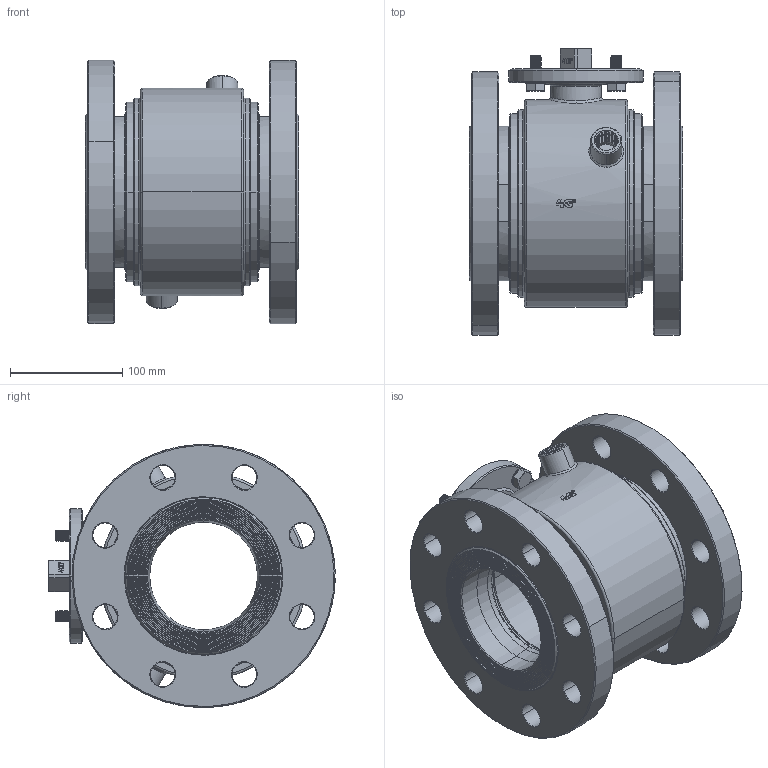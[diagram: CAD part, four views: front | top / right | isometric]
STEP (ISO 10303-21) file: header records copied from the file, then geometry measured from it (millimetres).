
FILE_DESCRIPTION((''),'2;1');
FILE_NAME('103052C6541F_SW0001','2026-04-01T14:06:54',('tecnico2'),('CDM Tecnoconsulting'),'CREO PARAMETRIC BY PTC INC, 2024063','CREO PARAMETRIC BY PTC INC, 2024063','');
FILE_SCHEMA(('CONFIG_CONTROL_DESIGN','SHAPE_APPEARANCE_LAYERS_GROUPS'));
Length unit declared in the file: millimetre
Products named in the file (1): 103052C6541F_SW0001
Bounding box: 190 x 255.39 x 234.78 mm (x, y, z)
Volume: 3546863.7 mm3; surface area: 616780 mm2
Topology: 1 solids, 1 shells, 2105 faces, 5636 edges, 3633 vertices
Faces by surface type: plane 819, cylinder 545, cone 309, extrusion 221, bspline 133, torus 74, sphere 4
Entity records: 143019 total; most frequent: CARTESIAN_POINT 75956, ORIENTED_EDGE 11256, DIRECTION 8528, PRESENTATION_STYLE_ASSIGNMENT 5751, STYLED_ITEM 5629, CURVE_STYLE 5628, EDGE_CURVE 5628, VERTEX_POINT 3633
